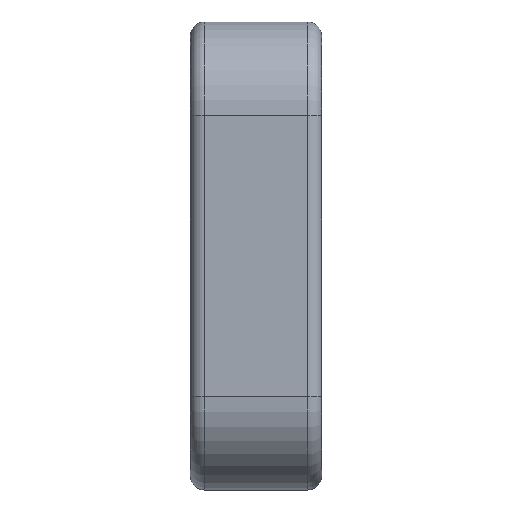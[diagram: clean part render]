
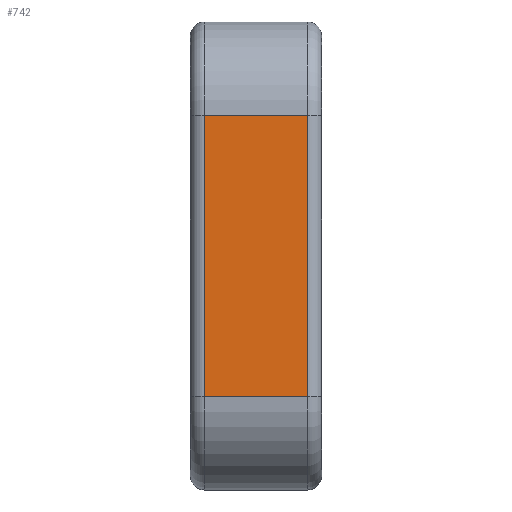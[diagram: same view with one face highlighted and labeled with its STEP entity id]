
A CAD part, front view. The second image highlights one B-rep face of the part: STEP entity #742.
In plain terms, the highlighted planar face has unit normal (0, -1, 0).
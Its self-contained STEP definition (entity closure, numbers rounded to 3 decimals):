
#742=ADVANCED_FACE('',(#1315),#1203,.T.);
#1203=PLANE('',#7880);
#1315=FACE_OUTER_BOUND('',#1819,.T.);
#1819=EDGE_LOOP('',(#3159,#3160,#3161,#3162));
#2381=LINE('',#10450,#2705);
#2382=LINE('',#10454,#2706);
#2383=LINE('',#10456,#2707);
#2384=LINE('',#10458,#2708);
#2705=VECTOR('',#8538,1.);
#2706=VECTOR('',#8543,1.);
#2707=VECTOR('',#8544,1.);
#2708=VECTOR('',#8545,1.);
#3159=ORIENTED_EDGE('',*,*,#6234,.F.);
#3160=ORIENTED_EDGE('',*,*,#6236,.T.);
#3161=ORIENTED_EDGE('',*,*,#6237,.T.);
#3162=ORIENTED_EDGE('',*,*,#6238,.F.);
#5497=VERTEX_POINT('',#10449);
#5498=VERTEX_POINT('',#10451);
#5499=VERTEX_POINT('',#10455);
#5500=VERTEX_POINT('',#10457);
#6234=EDGE_CURVE('',#5497,#5498,#2381,.T.);
#6236=EDGE_CURVE('',#5497,#5499,#2382,.T.);
#6237=EDGE_CURVE('',#5499,#5500,#2383,.T.);
#6238=EDGE_CURVE('',#5498,#5500,#2384,.T.);
#7880=AXIS2_PLACEMENT_3D('',#10459,#8546,#8547);
#8538=DIRECTION('',(-1.,0.,0.));
#8543=DIRECTION('',(0.,0.,1.));
#8544=DIRECTION('',(-1.,0.,0.));
#8545=DIRECTION('',(0.,0.,1.));
#8546=DIRECTION('',(0.,-1.,0.));
#8547=DIRECTION('',(0.,0.,-1.));
#10449=CARTESIAN_POINT('',(11.,-77.2,15.7));
#10450=CARTESIAN_POINT('',(14.,-77.2,15.7));
#10451=CARTESIAN_POINT('',(-11.,-77.2,15.7));
#10454=CARTESIAN_POINT('',(11.,-77.2,75.7));
#10455=CARTESIAN_POINT('',(11.,-77.2,75.7));
#10456=CARTESIAN_POINT('',(14.,-77.2,75.7));
#10457=CARTESIAN_POINT('',(-11.,-77.2,75.7));
#10458=CARTESIAN_POINT('',(-11.,-77.2,75.7));
#10459=CARTESIAN_POINT('',(14.,-77.2,15.7));
